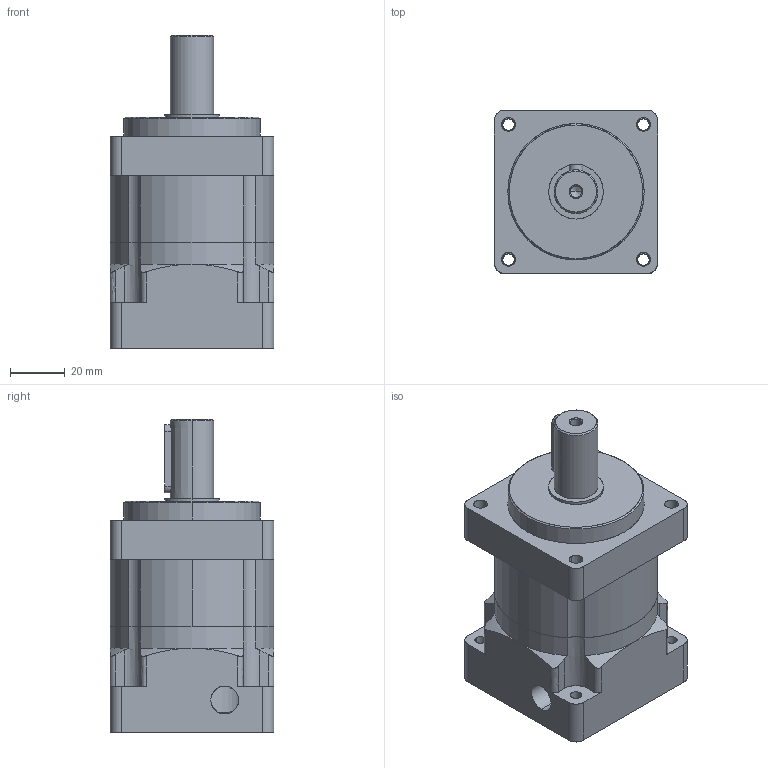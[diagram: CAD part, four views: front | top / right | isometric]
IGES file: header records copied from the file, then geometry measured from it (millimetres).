
Start section: SolidWorks IGES file using analytic representation for surfaces
Global section: file name: C:\Users\render\Documents\CAD Files\S-Gearboxes\SL-060-005\SL-060-005.IGS; native system: SolidWorks 2009; preprocessor: SolidWorks 2009; author: render; date: 100519.114000; units: millimetre
Bounding box: 60 x 60 x 115 mm (x, y, z)
Surface area: 52342.4 mm2 (no closed solid volume)
Topology: 0 solids, 0 shells, 134 faces, 2800 edges, 2798 vertices
Faces by surface type: revolution 92, bspline 42
